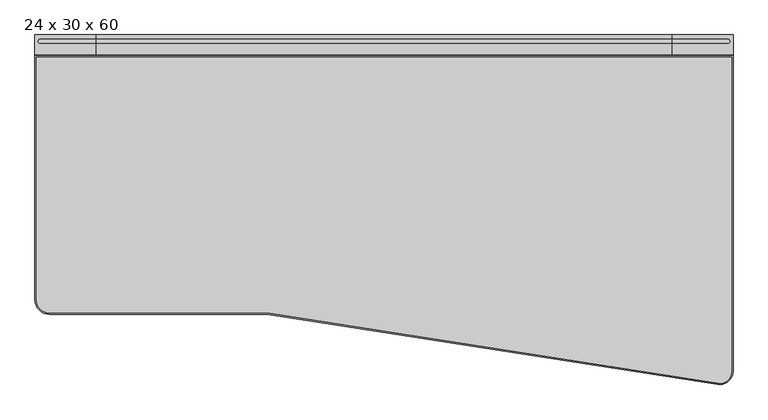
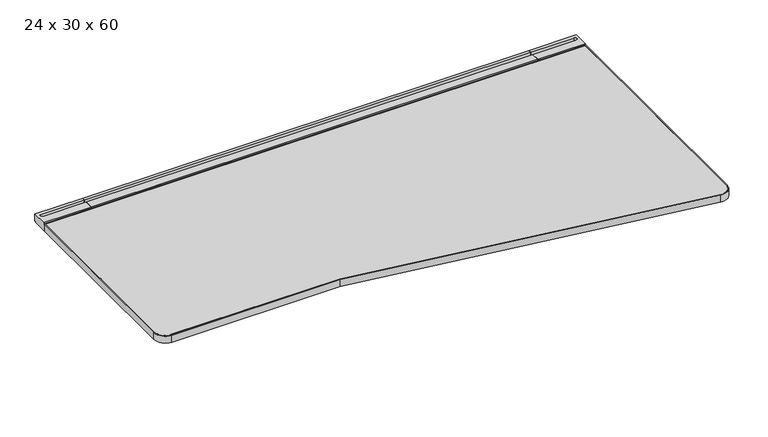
"""IFC4 building model written with IfcOpenShell, lengths in millimetres: furniture geometry, Steelcase - C Scape - Desking - Right Hand Transition : 24 x 30 x 60."""

from ifc_helpers import new_model, si_unit, point, frame, frame_2d, origin, place, context, project, spatial, polyline, circle_curve, trimmed, segment, composite_curve, outline, extrude, faceted_brep, source, transform, mapped, element, save
from ifc_brep_helpers import plane_surface, cylinder_surface, revolved_surface, advanced_brep


def furniture_24_x_30_x_60_5f838831(model_context):
    return source(origin(), model_context, "Body", "SolidModel", [
        advanced_brep(
        [(1389.3927124, -45.3135132, 703.3768), (1389.3927124, -45.3135132, 722.4268341), (1389.3927124, -42.7750923, 722.4268341), (1389.3927124, -42.7750923, 725.932), (1389.3927124, -19.3290527, 725.932), (1389.3927124, -19.3290527, 713.486), (1389.3927124, -8.5111084, 713.486), (1389.3927124, -8.5111084, 725.932), (1389.3927124, 0.0, 725.932), (1389.3927124, 0.0, 705.1038636), (1389.3927124, -3.2278472, 705.1038636), (1389.3927124, -4.0331902, 703.3768), (1522.4125, -45.3135132, 703.3768), (1522.4125, -4.0331902, 703.3768), (1522.4125, -3.2278472, 705.1038636), (1522.4125, 0.0, 705.1038636), (1522.4125, 0.0, 725.932), (1522.4125, -42.7750923, 725.932), (1522.4125, -42.7750923, 722.4268341), (1522.4125, -45.3135132, 722.4268341), (1510.6504272, -8.5111084, 725.932), (1510.6504272, -19.3290527, 725.932), (1510.6504272, -19.3290527, 713.486), (1510.6504272, -8.5111084, 713.486)],
        [
            (0, 1),
            (1, 2),
            (2, 3),
            (3, 4),
            (4, 5),
            (5, 6),
            (6, 7),
            (7, 8),
            (8, 9),
            (9, 10),
            (10, 11),
            (11, 0),
            (12, 13),
            (13, 14),
            (14, 15),
            (15, 16),
            (16, 17),
            (17, 18),
            (18, 19),
            (19, 12),
            (11, 13),
            (12, 0),
            (10, 14),
            (9, 15),
            (8, 16),
            (7, 20),
            (20, 21, circle_curve(frame((1510.6504272, -13.9200806, 725.932), z_axis=(0.0, 0.0, -1.0), x_axis=(-1.0, 0.0, 0.0)), 5.4089722)),
            (21, 4),
            (3, 17),
            (2, 18),
            (1, 19),
            (5, 22),
            (22, 23, circle_curve(frame((1510.6504272, -13.9200806, 713.486), z_axis=(0.0, 0.0, 1.0), x_axis=(-1.0, 0.0, 0.0)), 5.4089722)),
            (23, 6),
            (23, 20),
            (22, 21),
        ],
        [
            plane_surface(frame((1389.3927124, -45.3135132, 703.3768), z_axis=(-1.0, 0.0, 0.0), x_axis=(0.0, 1.0, 0.0))),
            plane_surface(frame((1522.4125, -45.3135132, 703.3768), z_axis=(1.0, 0.0, 0.0), x_axis=(0.0, -1.0, 0.0))),
            plane_surface(frame((1389.3927124, -45.3135132, 703.3768), z_axis=(0.0, 0.0, -1.0), x_axis=(1.0, 0.0, 0.0))),
            plane_surface(frame((1389.3927124, -4.0331902, 703.3768), z_axis=(0.0, 0.9063077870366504, -0.4226182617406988), x_axis=(1.0, 0.0, 0.0))),
            plane_surface(frame((1389.3927124, -3.2278472, 705.1038636), z_axis=(0.0, 0.0, -1.0), x_axis=(1.0, 0.0, 0.0))),
            plane_surface(frame((1389.3927124, 0.0, 705.1038636), z_axis=(0.0, 1.0, 0.0), x_axis=(1.0, 0.0, 0.0))),
            plane_surface(frame((1389.3927124, 0.0, 725.932), z_axis=(0.0, 0.0, 1.0), x_axis=(1.0, 0.0, 0.0))),
            plane_surface(frame((1389.3927124, -42.7750923, 725.932), z_axis=(0.0, -1.0, 0.0), x_axis=(1.0, 0.0, 0.0))),
            plane_surface(frame((1389.3927124, -42.7750923, 722.4268341), z_axis=(0.0, 0.0, 1.0), x_axis=(1.0, 0.0, 0.0))),
            plane_surface(frame((1389.3927124, -45.3135132, 722.4268341), z_axis=(0.0, -1.0, 0.0), x_axis=(1.0, 0.0, 0.0))),
            plane_surface(frame((1510.6504272, -8.5111084, 713.486), z_axis=(0.0, 0.0, 1.0), x_axis=(-1.0, 0.0, 0.0))),
            plane_surface(frame((1389.3927124, -8.5111084, 731.2180541), z_axis=(0.0, -1.0, 0.0), x_axis=(0.0, 0.0, -1.0))),
            revolved_surface(polyline([(1505.2414549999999, -13.9200806, 725.932), (1505.2414549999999, -13.9200806, 713.486)]), (1510.6504272, -13.9200806, 713.486), (0.0, 0.0, 1.0)),
            plane_surface(frame((1510.6504272, -19.3290527, 731.2180541), z_axis=(0.0, 1.0, 0.0), x_axis=(0.0, 0.0, -1.0))),
        ],
        [
            (0, [[1, 2, 3, 4, 5, 6, 7, 8, 9, 10, 11, 12]]),
            (1, [[13, 14, 15, 16, 17, 18, 19, 20]]),
            (2, [[21, -13, 22, -12]]),
            (3, [[23, -14, -21, -11]]),
            (4, [[24, -15, -23, -10]]),
            (5, [[25, -16, -24, -9]]),
            (6, [[-25, -8, 26, 27, 28, -4, 29, -17]]),
            (7, [[30, -18, -29, -3]]),
            (8, [[31, -19, -30, -2]]),
            (9, [[-22, -20, -31, -1]]),
            (10, [[-6, 32, 33, 34]]),
            (11, [[35, -26, -7, -34]]),
            (12, [[36, -27, -35, -33]]),
            (13, [[-5, -28, -36, -32]]),
        ],
    ),
        faceted_brep([(1503.3617368, -565.0752923, 700.7093833), (1503.3617368, -565.0752923, 703.3768), (1389.3927124, -565.0752923, 703.3768), (1389.3927124, -565.0752923, 679.3263935), (1405.0268699, -565.0752923, 679.3263935), (1407.6474121, -565.0752923, 693.4200291), (1489.0866272, -565.0752923, 693.4200291), (1503.3617368, -4.0331902, 700.7093833), (1489.0866272, -4.0331902, 693.4200291), (1407.6474121, -4.0331902, 693.4200291), (1395.7411653, -4.0331902, 629.3866), (1389.3927124, -4.0331902, 629.3866), (1389.3927124, -4.0331902, 703.3768), (1503.3617368, -4.0331902, 703.3768), (1402.8615949, -376.5599397, 667.6812472), (1395.7411653, -364.1172546, 629.3866), (1389.3927124, -364.1172546, 629.3866), (1389.3927124, -376.5599397, 667.6812472)], [[[0, 1, 2, 3, 4, 5, 6]], [[7, 8, 9, 10, 11, 12, 13]], [[6, 8, 7, 0]], [[5, 9, 8, 6]], [[9, 5, 4, 14, 15, 10]], [[10, 15, 16, 11]], [[11, 16, 17, 3, 2, 12]], [[1, 13, 12, 2]], [[0, 7, 13, 1]], [[14, 4, 3, 17]], [[17, 16, 15, 14]]]),
        extrude(outline(composite_curve([segment(polyline([(-293.5216187, 657.3775839), (-559.0022133, 680.1371551)]), True, "CONTINUOUS"), segment(trimmed(circle_curve(frame_2d((-558.7581271, 682.9843154)), 2.8576039), [point((-559.0022133, 680.1371551))], [point((-561.5383043, 682.3236226))], False, "CARTESIAN"), True, "CONTINUOUS"), segment(polyline([(-561.5383043, 682.3236226), (-566.0887542, 701.4717905), (-557.8334441, 701.4717905), (-557.8334441, 703.3768), (-442.6683806, 703.3768), (-442.6683806, 696.3917953), (-318.2108611, 696.3917953), (-318.2108611, 703.3768), (-293.5216187, 703.3768), (-293.5216187, 657.3775839)]), True, "CONTINUOUS")], self_intersect=False)), frame((725.424, 0.0, 0.0), z_axis=(1.0, 0.0, 0.0), x_axis=(0.0, 1.0, 0.0)), (0.0, 0.0, 1.0), 73.152),
        advanced_brep(
        [(134.6072876, -45.3135132, 703.3768), (134.6072876, -4.0331902, 703.3768), (134.6072876, -3.2278472, 705.1038636), (134.6072876, 0.0, 705.1038636), (134.6072876, 0.0, 725.932), (134.6072876, -8.5111084, 725.932), (134.6072876, -8.5111084, 713.486), (134.6072876, -19.3290527, 713.486), (134.6072876, -19.3290527, 725.932), (134.6072876, -42.7750923, 725.932), (134.6072876, -42.7750923, 722.4268341), (134.6072876, -45.3135132, 722.4268341), (1.5875, -45.3135132, 703.3768), (1.5875, -45.3135132, 722.4268341), (1.5875, -42.7750923, 722.4268341), (1.5875, -42.7750923, 725.932), (1.5875, 0.0, 725.932), (1.5875, 0.0, 705.1038636), (1.5875, -3.2278472, 705.1038636), (1.5875, -4.0331902, 703.3768), (13.3495728, -19.3290527, 725.932), (13.3495728, -8.5111084, 725.932), (13.3495728, -8.5111084, 713.486), (13.3495728, -19.3290527, 713.486)],
        [
            (0, 1),
            (1, 2),
            (2, 3),
            (3, 4),
            (4, 5),
            (5, 6),
            (6, 7),
            (7, 8),
            (8, 9),
            (9, 10),
            (10, 11),
            (11, 0),
            (12, 13),
            (13, 14),
            (14, 15),
            (15, 16),
            (16, 17),
            (17, 18),
            (18, 19),
            (19, 12),
            (0, 12),
            (19, 1),
            (18, 2),
            (17, 3),
            (16, 4),
            (15, 9),
            (8, 20),
            (20, 21, circle_curve(frame((13.3495728, -13.9200806, 725.932), z_axis=(0.0, 0.0, -1.0), x_axis=(1.0, 0.0, 0.0)), 5.4089722)),
            (21, 5),
            (14, 10),
            (13, 11),
            (6, 22),
            (22, 23, circle_curve(frame((13.3495728, -13.9200806, 713.486), z_axis=(0.0, 0.0, 1.0), x_axis=(1.0, 0.0, 0.0)), 5.4089722)),
            (23, 7),
            (21, 22),
            (20, 23),
        ],
        [
            plane_surface(frame((134.6072876, -45.3135132, 703.3768), z_axis=(1.0, 0.0, 0.0), x_axis=(0.0, 1.0, 0.0))),
            plane_surface(frame((1.5875, -45.3135132, 703.3768), z_axis=(-1.0, 0.0, 0.0), x_axis=(0.0, -1.0, 0.0))),
            plane_surface(frame((134.6072876, -45.3135132, 703.3768), z_axis=(0.0, 0.0, -1.0), x_axis=(-1.0, 0.0, 0.0))),
            plane_surface(frame((134.6072876, -4.0331902, 703.3768), z_axis=(0.0, 0.9063077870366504, -0.4226182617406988), x_axis=(-1.0, 0.0, 0.0))),
            plane_surface(frame((134.6072876, -3.2278472, 705.1038636), z_axis=(0.0, 0.0, -1.0), x_axis=(-1.0, 0.0, 0.0))),
            plane_surface(frame((134.6072876, 0.0, 705.1038636), z_axis=(0.0, 1.0, 0.0), x_axis=(-1.0, 0.0, 0.0))),
            plane_surface(frame((134.6072876, 0.0, 725.932), z_axis=(0.0, 0.0, 1.0), x_axis=(-1.0, 0.0, 0.0))),
            plane_surface(frame((134.6072876, -42.7750923, 725.932), z_axis=(0.0, -1.0, 0.0), x_axis=(-1.0, 0.0, 0.0))),
            plane_surface(frame((134.6072876, -42.7750923, 722.4268341), z_axis=(0.0, 0.0, 1.0), x_axis=(-1.0, 0.0, 0.0))),
            plane_surface(frame((134.6072876, -45.3135132, 722.4268341), z_axis=(0.0, -1.0, 0.0), x_axis=(-1.0, 0.0, 0.0))),
            plane_surface(frame((13.3495728, -8.5111084, 713.486), z_axis=(0.0, 0.0, 1.0), x_axis=(1.0, 0.0, 0.0))),
            plane_surface(frame((134.6072876, -8.5111084, 731.2180541), z_axis=(0.0, -1.0, 0.0), x_axis=(0.0, 0.0, -1.0))),
            revolved_surface(polyline([(18.758545, -13.9200806, 725.932), (18.758545, -13.9200806, 713.486)]), (13.3495728, -13.9200806, 713.486), (0.0, 0.0, 1.0)),
            plane_surface(frame((13.3495728, -19.3290527, 731.2180541), z_axis=(0.0, 1.0, 0.0), x_axis=(0.0, 0.0, -1.0))),
        ],
        [
            (0, [[1, 2, 3, 4, 5, 6, 7, 8, 9, 10, 11, 12]]),
            (1, [[13, 14, 15, 16, 17, 18, 19, 20]]),
            (2, [[-1, 21, -20, 22]]),
            (3, [[-2, -22, -19, 23]]),
            (4, [[-3, -23, -18, 24]]),
            (5, [[-4, -24, -17, 25]]),
            (6, [[-16, 26, -9, 27, 28, 29, -5, -25]]),
            (7, [[-10, -26, -15, 30]]),
            (8, [[-11, -30, -14, 31]]),
            (9, [[-12, -31, -13, -21]]),
            (10, [[32, 33, 34, -7]]),
            (11, [[-32, -6, -29, 35]]),
            (12, [[-33, -35, -28, 36]]),
            (13, [[-34, -36, -27, -8]]),
        ],
    ),
        faceted_brep([(20.6382632, -565.0752923, 700.7093833), (34.9133728, -565.0752923, 693.4200291), (116.3525879, -565.0752923, 693.4200291), (118.9731301, -565.0752923, 679.3263935), (134.6072876, -565.0752923, 679.3263935), (134.6072876, -565.0752923, 703.3768), (20.6382632, -565.0752923, 703.3768), (20.6382632, -4.0331902, 700.7093833), (20.6382632, -4.0331902, 703.3768), (134.6072876, -4.0331902, 703.3768), (134.6072876, -4.0331902, 629.3866), (128.2588347, -4.0331902, 629.3866), (116.3525879, -4.0331902, 693.4200291), (34.9133728, -4.0331902, 693.4200291), (128.2588347, -364.1172546, 629.3866), (121.1384051, -376.5599397, 667.6812472), (134.6072876, -364.1172546, 629.3866), (134.6072876, -376.5599397, 667.6812472)], [[[0, 1, 2, 3, 4, 5, 6]], [[7, 8, 9, 10, 11, 12, 13]], [[1, 0, 7, 13]], [[2, 1, 13, 12]], [[12, 11, 14, 15, 3, 2]], [[11, 10, 16, 14]], [[10, 9, 5, 4, 17, 16]], [[6, 5, 9, 8]], [[0, 6, 8, 7]], [[15, 17, 4, 3]], [[17, 15, 14, 16]]]),
        extrude(outline(polyline([(-8.5111084, 725.932), (0.0, 725.932), (0.0, 705.1038636), (-3.2278472, 705.1038636), (-4.0331902, 703.3768), (-45.3135132, 703.3768), (-45.3135132, 722.4268341), (-42.7750923, 722.4268341), (-42.7750923, 725.932), (-19.3290527, 725.932), (-19.3290527, 713.486), (-8.5111084, 713.486), (-8.5111084, 725.932)])), frame((134.6072876, 0.0, 0.0), z_axis=(1.0, 0.0, 0.0), x_axis=(0.0, 1.0, 0.0)), (0.0, 0.0, 1.0), 1254.7854248),
        extrude(outline(polyline([(134.6072876, -293.5216187), (134.6072876, -4.0331902), (1389.3927124, -4.0331902), (1389.3927124, -293.5216187), (134.6072876, -293.5216187)])), frame((0.0, 0.0, 629.3866), z_axis=(0.0, 0.0, 1.0), x_axis=(1.0, 0.0, 0.0)), (0.0, 0.0, 1.0), 73.9902),
        advanced_brep(
        [(4.6355, -48.3660689, 723.9), (4.6355, -577.85, 723.9), (33.3375, -606.5490234, 723.9), (508.0002405, -606.5490234, 723.9), (1490.0488255, -759.7737122, 723.9), (1519.3645, -734.677348, 723.9), (1519.3645, -48.3660689, 723.9), (4.6355, -48.3660689, 703.3768), (1519.3645, -48.3660689, 703.3768), (1519.3645, -734.677348, 703.3768), (1490.0488255, -759.7737122, 703.3768), (508.0002405, -606.5490234, 703.3768), (33.3375, -606.5490234, 703.3768), (4.6384766, -577.85, 703.3768)],
        [
            (0, 1),
            (1, 2, circle_curve(frame((33.3375, -577.85, 723.9), z_axis=(0.0, 0.0, 1.0), x_axis=(1.0, 0.0, 0.0)), 28.6990234)),
            (2, 3),
            (3, 4),
            (4, 5, circle_curve(frame((1493.9645, -734.677348, 723.9), z_axis=(0.0, 0.0, 1.0), x_axis=(1.0, 0.0, 0.0)), 25.4)),
            (5, 6),
            (6, 0),
            (7, 8),
            (8, 9),
            (9, 10, circle_curve(frame((1493.9645, -734.677348, 703.3768), z_axis=(0.0, 0.0, -1.0), x_axis=(1.0, 0.0, 0.0)), 25.4)),
            (10, 11),
            (11, 12),
            (12, 13, circle_curve(frame((33.3375, -577.85, 703.3768), z_axis=(0.0, 0.0, -1.0), x_axis=(1.0, 0.0, 0.0)), 28.6990234)),
            (13, 7),
            (0, 7),
            (13, 1),
            (12, 2),
            (11, 3),
            (10, 4),
            (9, 5),
            (8, 6),
        ],
        [
            plane_surface(frame((4.6355, -48.3660689, 723.9), z_axis=(0.0, 0.0, 1.0), x_axis=(0.0, -1.0, 0.0))),
            plane_surface(frame((4.6355, -48.3660689, 703.3768), z_axis=(0.0, 0.0, -1.0), x_axis=(0.0, 1.0, 0.0))),
            plane_surface(frame((4.6355, -48.3660689, 723.9), z_axis=(-1.0, 0.0, 0.0), x_axis=(0.0, 0.0, -1.0))),
            cylinder_surface(frame((33.3375, -577.85, 703.3768), z_axis=(0.0, 0.0, 1.0), x_axis=(1.0, 0.0, 0.0)), 28.6990234),
            plane_surface(frame((33.3375, -606.5490234, 723.9), z_axis=(0.0, -1.0, 0.0), x_axis=(0.0, 0.0, -1.0))),
            plane_surface(frame((508.0002405, -606.5490234, 723.9), z_axis=(-0.15416041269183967, -0.9880458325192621, 0.0), x_axis=(0.0, 0.0, -1.0))),
            cylinder_surface(frame((1493.9645, -734.677348, 703.3768), z_axis=(0.0, 0.0, 1.0), x_axis=(1.0, 0.0, 0.0)), 25.4),
            plane_surface(frame((1519.3645, -734.677348, 723.9), z_axis=(1.0, 0.0, 0.0), x_axis=(0.0, 0.0, -1.0))),
            plane_surface(frame((1519.3645, -48.3660689, 723.9), z_axis=(0.0, 1.0, 0.0), x_axis=(0.0, 0.0, -1.0))),
        ],
        [
            (0, [[1, 2, 3, 4, 5, 6, 7]]),
            (1, [[8, 9, 10, 11, 12, 13, 14]]),
            (2, [[-1, 15, -14, 16]]),
            (3, [[-2, -16, -13, 17]]),
            (4, [[-3, -17, -12, 18]]),
            (5, [[-4, -18, -11, 19]]),
            (6, [[-5, -19, -10, 20]]),
            (7, [[-6, -20, -9, 21]]),
            (8, [[-7, -21, -8, -15]]),
        ],
    ),
        extrude(outline(composite_curve([segment(polyline([(1522.4125, -45.3150923), (1522.4125, -733.2875177)]), True, "CONTINUOUS"), segment(trimmed(circle_curve(frame_2d((1492.8036927, -733.2875177)), 29.6088073), [point((1522.4125, -733.2875177))], [point((1488.2391868, -762.5423763))], False, "CARTESIAN"), True, "CONTINUOUS"), segment(polyline([(1488.2391868, -762.5423763), (508.0, -609.6), (33.3375, -609.6)]), True, "CONTINUOUS"), segment(trimmed(circle_curve(frame_2d((33.3375, -577.85)), 31.75), [point((33.3375, -609.6))], [point((1.5875, -577.85))], False, "CARTESIAN"), True, "CONTINUOUS"), segment(polyline([(1.5875, -577.85), (1.5875, -45.3150923), (1522.4125, -45.3150923)]), True, "CONTINUOUS")], self_intersect=False), holes=[composite_curve([segment(polyline([(508.236584, -606.5490234), (1488.7095266, -759.5278717)]), True, "CONTINUOUS"), segment(trimmed(circle_curve(frame_2d((1492.8036927, -733.2875177)), 26.5578307), [point((1488.7095266, -759.5278717))], [point((1519.3615234, -733.2875177))], True, "CARTESIAN"), True, "CONTINUOUS"), segment(polyline([(1519.3615234, -733.2875177), (1519.3615234, -48.3660689), (4.6384766, -48.3660689), (4.6384766, -577.85)]), True, "CONTINUOUS"), segment(trimmed(circle_curve(frame_2d((33.3375, -577.85)), 28.6990234), [point((4.6384766, -577.85))], [point((33.3375, -606.5490234))], True, "CARTESIAN"), True, "CONTINUOUS"), segment(polyline([(33.3375, -606.5490234), (508.236584, -606.5490234)]), True, "CONTINUOUS")], self_intersect=False)]), frame((0.0, 0.0, 703.3768), z_axis=(0.0, 0.0, 1.0), x_axis=(1.0, 0.0, 0.0)), (0.0, 0.0, 1.0), 20.5232),
    ])


if __name__ == "__main__":
    model = new_model("IFC4")
    model_context = context("Model", 3, world=origin())
    ifc_project = project(units=[si_unit("LENGTHUNIT", "METRE", prefix="MILLI")], contexts=[model_context])
    site = spatial("IfcSite", under=ifc_project)
    building = spatial("IfcBuilding", under=site)
    placement = place(None, origin())
    furniture_24_x_30_x_60_shape = furniture_24_x_30_x_60_5f838831(model_context)
    element("IfcFurniture", 1, ObjectType="Steelcase - C Scape - Desking - Right Hand Transition : 24 x 30 x 60", at=placement, inside=building, context=model_context, shape_type="MappedRepresentation", body=[
        mapped(furniture_24_x_30_x_60_shape, transform((0.0, 0.0, 0.0), x_axis=(1.0, 0.0, 0.0), y_axis=(0.0, 1.0, 0.0), z_axis=(0.0, 0.0, 1.0))),
    ])
    save(model, "model.ifc")
